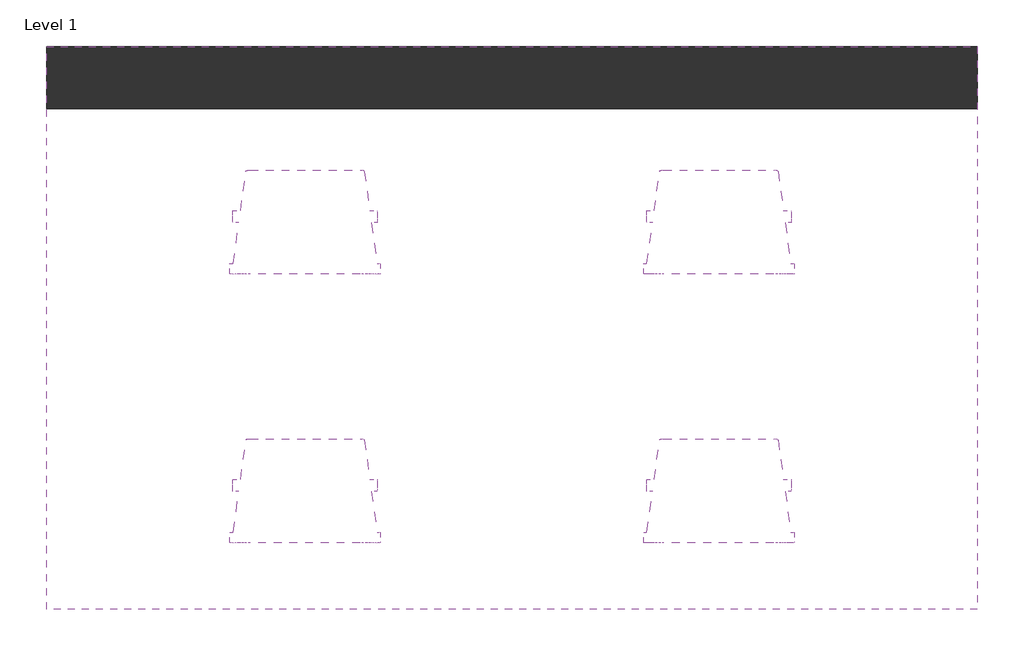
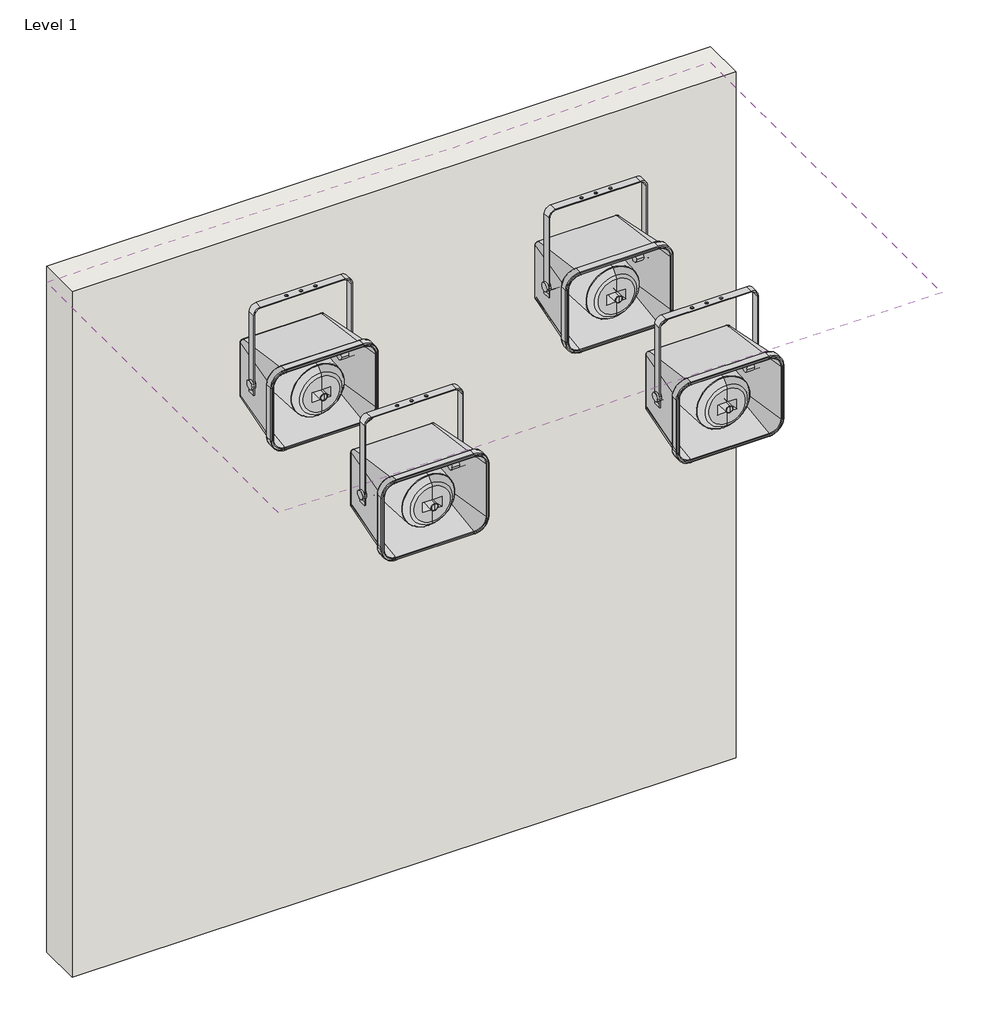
# One storey: 4 proxies, 1 covering, 1 wall.
"""IFC4 building model written with IfcOpenShell, lengths in millimetres."""

from ifc_helpers import new_model, si_unit, frame, origin, origin_with_axes, place, context, project, spatial, polyline, outline, extrude, transform, mapped, element, save
from components import communication_devices_31aff338, communication_devices_dded3aef

model = new_model("IFC4")

# Units and contexts
model_context = context("Model", 3, world=origin())
ifc_project = project(units=[si_unit("LENGTHUNIT", "METRE", prefix="MILLI")], contexts=[model_context])

# Site, building, storey
site = spatial("IfcSite", under=ifc_project)
building = spatial("IfcBuilding", under=site)
storey = spatial("IfcBuildingStorey", under=building, Name="Level 1", Elevation=0.0)

# Proxies
placement = place(None, origin())
communication_devices_shape = communication_devices_31aff338(model_context)
communication_devices_2_shape = communication_devices_dded3aef(model_context)
element("IfcBuildingElementProxy", 1, Name="230208 BIM Data_CS 532T VA-FR : CS 532T VA", ObjectType="230208 BIM Data_CS 532T VA-FR : CS 532T VA", at=placement, inside=storey, context=model_context, shape_type="MappedRepresentation", body=[
    mapped(communication_devices_shape, transform((2468.1973575, 1683.7766815, 1990.9), x_axis=(1.0, 0.0, 0.0), y_axis=(0.0, 1.0, 0.0), z_axis=(0.0, 0.0, 1.0))),
    mapped(communication_devices_2_shape, transform((2468.1973575, 1683.7766815, 1990.9), x_axis=(1.0, 0.0, 0.0), y_axis=(0.0, 1.0, 0.0), z_axis=(0.0, 0.0, 1.0))),
])
element("IfcBuildingElementProxy", 2, Name="230208 BIM Data_CS 532T VA-FR : CS 532T VA", ObjectType="230208 BIM Data_CS 532T VA-FR : CS 532T VA", at=placement, inside=storey, context=model_context, shape_type="MappedRepresentation", body=[
    mapped(communication_devices_shape, transform((3484.1973575, 1683.7766815, 1990.9), x_axis=(1.0, 0.0, 0.0), y_axis=(0.0, 1.0, 0.0), z_axis=(0.0, 0.0, 1.0))),
    mapped(communication_devices_2_shape, transform((3484.1973575, 1683.7766815, 1990.9), x_axis=(1.0, 0.0, 0.0), y_axis=(0.0, 1.0, 0.0), z_axis=(0.0, 0.0, 1.0))),
])
element("IfcBuildingElementProxy", 3, Name="230208 BIM Data_CS 532T VA-FR : CS 532T VA", ObjectType="230208 BIM Data_CS 532T VA-FR : CS 532T VA", at=placement, inside=storey, context=model_context, shape_type="MappedRepresentation", body=[
    mapped(communication_devices_shape, transform((2468.1973575, 1023.3766815, 1990.9), x_axis=(1.0, 0.0, 0.0), y_axis=(0.0, 1.0, 0.0), z_axis=(0.0, 0.0, 1.0))),
    mapped(communication_devices_2_shape, transform((2468.1973575, 1023.3766815, 1990.9), x_axis=(1.0, 0.0, 0.0), y_axis=(0.0, 1.0, 0.0), z_axis=(0.0, 0.0, 1.0))),
])
element("IfcBuildingElementProxy", 4, Name="230208 BIM Data_CS 532T VA-FR : CS 532T VA", ObjectType="230208 BIM Data_CS 532T VA-FR : CS 532T VA", at=placement, inside=storey, context=model_context, shape_type="MappedRepresentation", body=[
    mapped(communication_devices_shape, transform((3484.1973575, 1023.3766815, 1990.9), x_axis=(1.0, 0.0, 0.0), y_axis=(0.0, 1.0, 0.0), z_axis=(0.0, 0.0, 1.0))),
    mapped(communication_devices_2_shape, transform((3484.1973575, 1023.3766815, 1990.9), x_axis=(1.0, 0.0, 0.0), y_axis=(0.0, 1.0, 0.0), z_axis=(0.0, 0.0, 1.0))),
])

# Covering
element("IfcCovering", 5, ObjectType="2' x 4' ACT System", at=placement, inside=storey, context=model_context, shape_type="SweptSolid", body=[
    extrude(outline(polyline([(4119.1973575, 2115.5766815), (4119.1973575, 732.2741036), (1833.1973575, 732.2741036), (1833.1973575, 2115.5766815), (4119.1973575, 2115.5766815)])), frame((0.0, 0.0, 2438.4), z_axis=(0.0, 0.0, 1.0), x_axis=(1.0, 0.0, 0.0)), (0.0, 0.0, 1.0), 57.15),
])

# Wall
element("IfcWall", 6, ObjectType="Exterior - 6\" Generic", at=placement, inside=storey, context=model_context, shape_type="SweptSolid", body=[
    extrude(outline(polyline([(4119.1973575, 1963.1766815), (1833.1973575, 1963.1766815), (1833.1973575, 2115.5766815), (4119.1973575, 2115.5766815), (4119.1973575, 1963.1766815)])), origin_with_axes(), (0.0, 0.0, 1.0), 2495.55),
])

save(model, "model.ifc")
